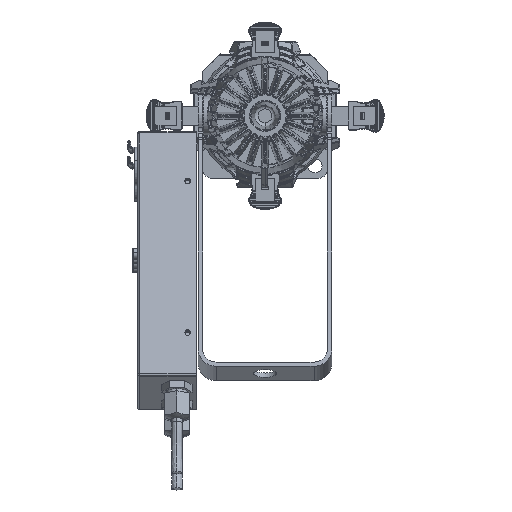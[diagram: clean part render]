
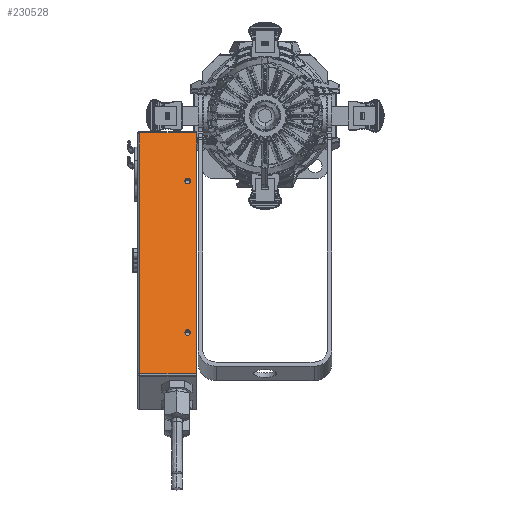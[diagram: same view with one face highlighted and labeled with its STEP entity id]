
A CAD part, front view. The second image highlights one B-rep face of the part: STEP entity #230528.
In plain terms, the highlighted planar face has unit normal (0, -0.946, 0.326) as drawn and (0, 0, 1) by its records, which use the part's own axes.
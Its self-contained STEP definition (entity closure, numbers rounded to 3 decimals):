
#228853=DIRECTION('',(0.,1.,0.));
#228854=VECTOR('',#228853,32.);
#228855=CARTESIAN_POINT('',(71.5,-16.5,30.));
#228856=LINE('',#228855,#228854);
#228876=DIRECTION('',(-1.,0.,0.));
#228877=VECTOR('',#228876,143.);
#228878=CARTESIAN_POINT('',(71.5,15.5,30.));
#228879=LINE('',#228878,#228877);
#229058=DIRECTION('',(0.,-1.,0.));
#229059=VECTOR('',#229058,32.);
#229060=CARTESIAN_POINT('',(-71.5,15.5,30.));
#229061=LINE('',#229060,#229059);
#229066=DIRECTION('',(-1.,0.,0.));
#229067=VECTOR('',#229066,143.);
#229068=CARTESIAN_POINT('',(71.5,-16.5,30.));
#229069=LINE('',#229068,#229067);
#229070=CARTESIAN_POINT('',(-47.,-11.5,30.));
#229071=DIRECTION('',(0.,0.,1.));
#229072=DIRECTION('',(-1.,0.,0.));
#229073=AXIS2_PLACEMENT_3D('',#229070,#229071,#229072);
#229075=CARTESIAN_POINT('',(-47.,-11.5,30.));
#229076=DIRECTION('',(0.,0.,1.));
#229077=DIRECTION('',(1.,0.,0.));
#229078=AXIS2_PLACEMENT_3D('',#229075,#229076,#229077);
#229080=CARTESIAN_POINT('',(43.,-11.5,30.));
#229081=DIRECTION('',(0.,0.,1.));
#229082=DIRECTION('',(-1.,0.,0.));
#229083=AXIS2_PLACEMENT_3D('',#229080,#229081,#229082);
#229085=CARTESIAN_POINT('',(43.,-11.5,30.));
#229086=DIRECTION('',(0.,0.,1.));
#229087=DIRECTION('',(1.,0.,0.));
#229088=AXIS2_PLACEMENT_3D('',#229085,#229086,#229087);
#229925=CARTESIAN_POINT('',(71.5,-16.5,30.));
#229927=VERTEX_POINT('',#229925);
#229939=CARTESIAN_POINT('',(-71.5,-16.5,30.));
#229940=VERTEX_POINT('',#229939);
#229950=CARTESIAN_POINT('',(71.5,15.5,30.));
#229952=VERTEX_POINT('',#229950);
#229957=CARTESIAN_POINT('',(-71.5,15.5,30.));
#229958=VERTEX_POINT('',#229957);
#230027=CARTESIAN_POINT('',(-48.6,-11.5,30.));
#230028=CARTESIAN_POINT('',(-45.4,-11.5,30.));
#230029=VERTEX_POINT('',#230027);
#230030=VERTEX_POINT('',#230028);
#230031=CARTESIAN_POINT('',(41.4,-11.5,30.));
#230032=CARTESIAN_POINT('',(44.6,-11.5,30.));
#230033=VERTEX_POINT('',#230031);
#230034=VERTEX_POINT('',#230032);
#230505=CARTESIAN_POINT('',(-72.5,-16.5,30.));
#230506=DIRECTION('',(0.,0.,1.));
#230507=DIRECTION('',(1.,0.,0.));
#230508=AXIS2_PLACEMENT_3D('',#230505,#230506,#230507);
#230509=PLANE('',#230508);
#230510=ORIENTED_EDGE('',*,*,#230307,.F.);
#230511=ORIENTED_EDGE('',*,*,#230281,.F.);
#230512=ORIENTED_EDGE('',*,*,#230256,.T.);
#230513=ORIENTED_EDGE('',*,*,#230498,.F.);
#230514=EDGE_LOOP('',(#230510,#230511,#230512,#230513));
#230515=FACE_OUTER_BOUND('',#230514,.F.);
#230517=ORIENTED_EDGE('',*,*,#230516,.T.);
#230519=ORIENTED_EDGE('',*,*,#230518,.T.);
#230520=EDGE_LOOP('',(#230517,#230519));
#230521=FACE_BOUND('',#230520,.F.);
#230523=ORIENTED_EDGE('',*,*,#230522,.T.);
#230525=ORIENTED_EDGE('',*,*,#230524,.T.);
#230526=EDGE_LOOP('',(#230523,#230525));
#230527=FACE_BOUND('',#230526,.F.);
#229074=CIRCLE('',#229073,1.6);
#229079=CIRCLE('',#229078,1.6);
#229084=CIRCLE('',#229083,1.6);
#229089=CIRCLE('',#229088,1.6);
#230256=EDGE_CURVE('',#229927,#229940,#229069,.T.);
#230281=EDGE_CURVE('',#229927,#229952,#228856,.T.);
#230307=EDGE_CURVE('',#229952,#229958,#228879,.T.);
#230498=EDGE_CURVE('',#229958,#229940,#229061,.T.);
#230516=EDGE_CURVE('',#230029,#230030,#229074,.T.);
#230518=EDGE_CURVE('',#230030,#230029,#229079,.T.);
#230522=EDGE_CURVE('',#230033,#230034,#229084,.T.);
#230524=EDGE_CURVE('',#230034,#230033,#229089,.T.);
#230528=ADVANCED_FACE('',(#230515,#230521,#230527),#230509,.T.);
